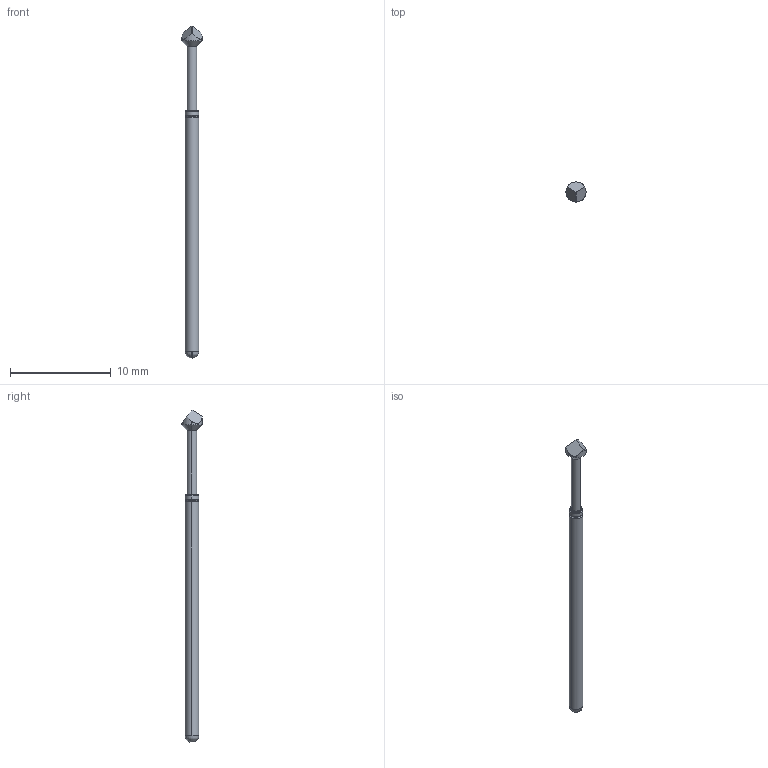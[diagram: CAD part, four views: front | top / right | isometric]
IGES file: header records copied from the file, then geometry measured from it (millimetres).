
Start section: SolidWorks IGES file using analytic representation for surfaces
Global section: file name: \\CODA-VM-SBS\RedirectedFolders\georged\My Documents\Coda\PA Series\Website\PA4TS-2.0.IGS; native system: SolidWorks 2022; preprocessor: SolidWorks 2022; author: GeorgeD; date: 220719.133512; units: millimetre
Bounding box: 2 x 2 x 33.02 mm (x, y, z)
Surface area: 136.6 mm2 (no closed solid volume)
Topology: 0 solids, 0 shells, 25 faces, 184 edges, 184 vertices
Faces by surface type: revolution 16, bspline 9
